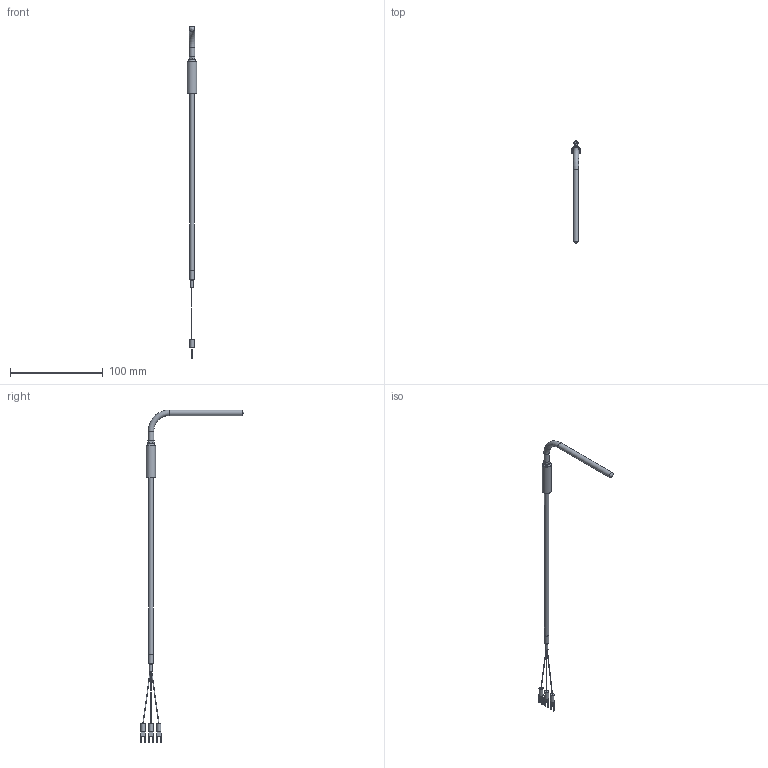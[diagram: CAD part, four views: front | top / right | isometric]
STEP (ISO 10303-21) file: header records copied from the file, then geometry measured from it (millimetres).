
FILE_DESCRIPTION (( 'STEP AP203' ), '1' );
FILE_NAME ('YIR111-6(0).STEP', '2024-10-30T04:21:01', ( '' ), ( '' ), 'SwSTEP 2.0', 'SolidWorks 2021', '' );
FILE_SCHEMA (( 'CONFIG_CONTROL_DESIGN' ));
Length unit declared in the file: millimetre
Products named in the file (1): YIR111-6(0)
Bounding box: 10 x 111.48 x 357.72 mm (x, y, z)
Volume: 10606.3 mm3; surface area: 7791.2 mm2
Topology: 1 solids, 1 shells, 91 faces, 222 edges, 145 vertices
Faces by surface type: plane 47, cylinder 31, bspline 8, cone 3, torus 2
Full cylindrical faces by diameter (mm): 0.5 x1, 3.16 x1, 4.5 x3, 4.8 x1, 5 x1, 6 x2, 10 x1
Entity records: 2817 total; most frequent: CARTESIAN_POINT 680, DIRECTION 424, ORIENTED_EDGE 400, EDGE_CURVE 200, AXIS2_PLACEMENT_3D 152, VERTEX_POINT 140, LINE 120, VECTOR 120
